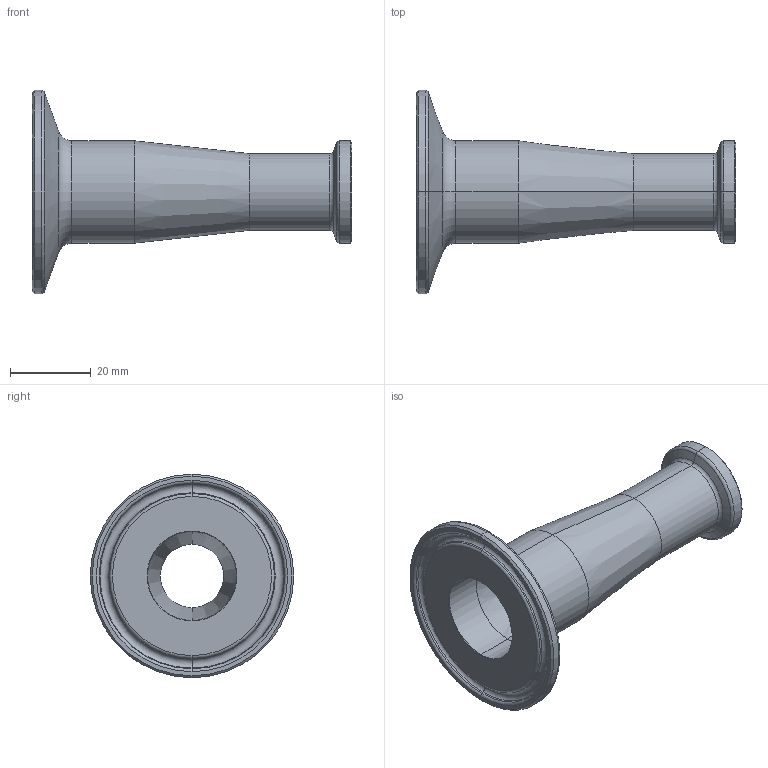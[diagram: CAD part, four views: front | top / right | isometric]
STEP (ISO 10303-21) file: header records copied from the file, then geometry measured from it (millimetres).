
FILE_DESCRIPTION (( 'STEP AP214' ), '1' );
FILE_NAME ('TEG31SCC6I1.0x.75.STEP', '2016-05-29T13:18:00', ( 'eran' ), ( '' ), 'SwSTEP 2.0', 'SolidWorks 2016', '' );
FILE_SCHEMA (( 'AUTOMOTIVE_DESIGN' ));
Length unit declared in the file: millimetre
Products named in the file (1): TEG31SCC6I1.0x.75
Bounding box: 79.38 x 50.5 x 50.5 mm (x, y, z)
Volume: 19753.1 mm3; surface area: 13695.6 mm2
Topology: 1 solids, 1 shells, 54 faces, 108 edges, 58 vertices
Faces by surface type: cone 20, torus 16, cylinder 14, plane 4
Entity records: 1428 total; most frequent: DIRECTION 292, CARTESIAN_POINT 221, ORIENTED_EDGE 216, AXIS2_PLACEMENT_3D 129, EDGE_CURVE 108, CIRCLE 74, VERTEX_POINT 58, EDGE_LOOP 58
